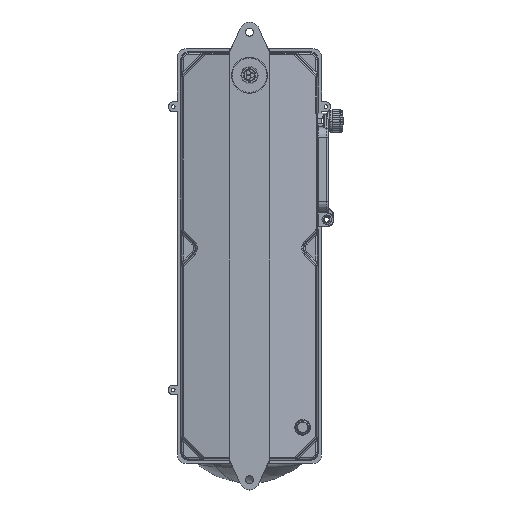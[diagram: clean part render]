
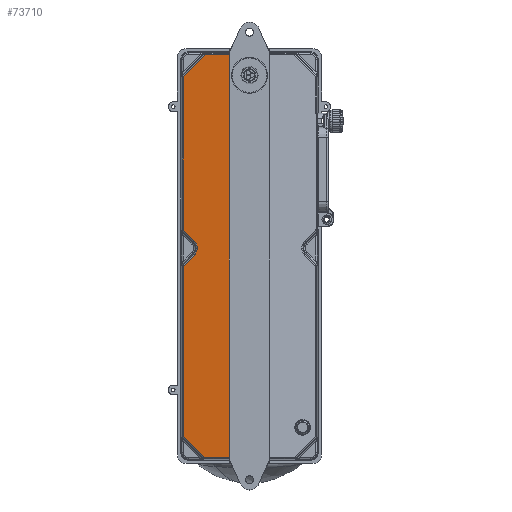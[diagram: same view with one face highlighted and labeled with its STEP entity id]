
A CAD part, top view. The second image highlights one B-rep face of the part: STEP entity #73710.
In plain terms, the highlighted planar face has unit normal (-0.139, 0, 0.99).
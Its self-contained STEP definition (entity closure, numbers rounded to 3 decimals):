
#642 = EDGE_CURVE ( 'NONE', #20931, #56839, #44905, .T. ) ;
#1075 = LINE ( 'NONE', #48529, #13241 ) ;
#1404 = DIRECTION ( 'NONE',  ( 0.403, -0.913, 0.057 ) ) ;
#2658 = CARTESIAN_POINT ( 'NONE',  ( -35.187, 4.452, 48.861 ) ) ;
#2815 = CARTESIAN_POINT ( 'NONE',  ( -13.182, 124.248, 51.953 ) ) ;
#3114 = VERTEX_POINT ( 'NONE', #47565 ) ;
#3405 = CARTESIAN_POINT ( 'NONE',  ( -33.987, -3.257, 49.029 ) ) ;
#3486 = CARTESIAN_POINT ( 'NONE',  ( -12.85, 144.5, 52. ) ) ;
#3700 = VERTEX_POINT ( 'NONE', #37438 ) ;
#4183 = DIRECTION ( 'NONE',  ( 0., -1., 0. ) ) ;
#5921 = VECTOR ( 'NONE', #43735, 1000. ) ;
#7213 = EDGE_CURVE ( 'NONE', #76088, #27225, #66057, .T. ) ;
#7387 = VERTEX_POINT ( 'NONE', #2658 ) ;
#8722 = ORIENTED_EDGE ( 'NONE', *, *, #30573, .T. ) ;
#9812 = CARTESIAN_POINT ( 'NONE',  ( -13.785, 123.697, 51.869 ) ) ;
#9951 = EDGE_LOOP ( 'NONE', ( #52623, #22011, #17807, #56294, #73915, #20162, #44597, #38093, #62596, #21142, #31139, #42838, #53831, #8722, #9972 ) ) ;
#9972 = ORIENTED_EDGE ( 'NONE', *, *, #13708, .T. ) ;
#10312 =( BOUNDED_CURVE ( )  B_SPLINE_CURVE ( 3, ( #41607, #65360, #3405, #27075 ),
 .UNSPECIFIED., .F., .T. ) 
 B_SPLINE_CURVE_WITH_KNOTS ( ( 4, 4 ),
 ( 0., 0.787 ),
 .UNSPECIFIED. ) 
 CURVE ( )  GEOMETRIC_REPRESENTATION_ITEM ( )  RATIONAL_B_SPLINE_CURVE ( ( 1., 0.949, 0.949, 1. ) ) 
 REPRESENTATION_ITEM ( '' )  );
#11232 = DIRECTION ( 'NONE',  ( 0.99, 0.001, 0.139 ) ) ;
#11341 = EDGE_CURVE ( 'NONE', #3114, #75151, #1075, .T. ) ;
#11452 = CARTESIAN_POINT ( 'NONE',  ( -13.619, -133.815, 51.892 ) ) ;
#12396 = CARTESIAN_POINT ( 'NONE',  ( -35.187, -4.452, 48.861 ) ) ;
#12612 = DIRECTION ( 'NONE',  ( 0.705, -0.702, 0.099 ) ) ;
#13241 = VECTOR ( 'NONE', #11232, 1000. ) ;
#13584 = VECTOR ( 'NONE', #25551, 1000. ) ;
#13708 = EDGE_CURVE ( 'NONE', #56278, #55480, #17269, .T. ) ;
#15386 = CARTESIAN_POINT ( 'NONE',  ( -10.031, 141.616, 52.396 ) ) ;
#15650 = CARTESIAN_POINT ( 'NONE',  ( -13.619, 123.815, 51.892 ) ) ;
#16439 = VECTOR ( 'NONE', #1404, 1000. ) ;
#17052 = CARTESIAN_POINT ( 'NONE',  ( -42.256, -120.61, 47.867 ) ) ;
#17269 = LINE ( 'NONE', #53068, #24469 ) ;
#17653 = CARTESIAN_POINT ( 'NONE',  ( -13.182, -134.248, 51.953 ) ) ;
#17733 = LINE ( 'NONE', #41391, #5921 ) ;
#17807 = ORIENTED_EDGE ( 'NONE', *, *, #642, .T. ) ;
#18407 = LINE ( 'NONE', #67008, #33317 ) ;
#19454 = PLANE ( 'NONE',  #38804 ) ;
#19760 = B_SPLINE_CURVE_WITH_KNOTS ( 'NONE', 3,
 ( #47221, #40161, #11452, #34714, #17653, #29267 ),
 .UNSPECIFIED., .F., .F.,
 ( 4, 2, 4 ),
 ( 0., 0.001, 0.001 ),
 .UNSPECIFIED. ) ;
#20162 = ORIENTED_EDGE ( 'NONE', *, *, #55411, .T. ) ;
#20539 = CARTESIAN_POINT ( 'NONE',  ( -42.256, 11.097, 47.867 ) ) ;
#20931 = VERTEX_POINT ( 'NONE', #28142 ) ;
#21142 = ORIENTED_EDGE ( 'NONE', *, *, #43530, .T. ) ;
#22011 = ORIENTED_EDGE ( 'NONE', *, *, #35869, .T. ) ;
#23886 = CARTESIAN_POINT ( 'NONE',  ( -42.256, -120.21, 47.867 ) ) ;
#24469 = VECTOR ( 'NONE', #35478, 1000. ) ;
#24939 = VERTEX_POINT ( 'NONE', #44016 ) ;
#25210 = VERTEX_POINT ( 'NONE', #23886 ) ;
#25418 = CARTESIAN_POINT ( 'NONE',  ( -13.953, -133.582, 51.845 ) ) ;
#25551 = DIRECTION ( 'NONE',  ( -0.705, -0.702, -0.099 ) ) ;
#26855 = CARTESIAN_POINT ( 'NONE',  ( -13.953, 123.582, 51.845 ) ) ;
#27075 = CARTESIAN_POINT ( 'NONE',  ( -35.187, -4.452, 48.861 ) ) ;
#27225 = VERTEX_POINT ( 'NONE', #33857 ) ;
#28142 = CARTESIAN_POINT ( 'NONE',  ( -13.953, 123.582, 51.845 ) ) ;
#28534 = DIRECTION ( 'NONE',  ( -0.705, -0.702, -0.099 ) ) ;
#28681 = LINE ( 'NONE', #17052, #65031 ) ;
#29267 = CARTESIAN_POINT ( 'NONE',  ( -13.099, -134.437, 51.965 ) ) ;
#29542 = VECTOR ( 'NONE', #39769, 1000. ) ;
#30573 = EDGE_CURVE ( 'NONE', #52563, #56278, #53570, .T. ) ;
#30905 = CARTESIAN_POINT ( 'NONE',  ( -13.378, -133.805, 51.926 ) ) ;
#31095 = FACE_OUTER_BOUND ( 'NONE', #9951, .T. ) ;
#31139 = ORIENTED_EDGE ( 'NONE', *, *, #69265, .T. ) ;
#31640 = CARTESIAN_POINT ( 'NONE',  ( -33.338, 0., 49.121 ) ) ;
#31746 = EDGE_CURVE ( 'NONE', #51548, #3700, #38399, .T. ) ;
#33317 = VECTOR ( 'NONE', #36261, 1000. ) ;
#33857 = CARTESIAN_POINT ( 'NONE',  ( -42.256, -11.497, 47.867 ) ) ;
#34714 = CARTESIAN_POINT ( 'NONE',  ( -13.318, -134.089, 51.934 ) ) ;
#35478 = DIRECTION ( 'NONE',  ( 0., 1., 0. ) ) ;
#35487 = LINE ( 'NONE', #48376, #70454 ) ;
#35869 = EDGE_CURVE ( 'NONE', #55304, #20931, #54454, .T. ) ;
#36261 = DIRECTION ( 'NONE',  ( 0.403, 0.913, 0.057 ) ) ;
#36333 = CARTESIAN_POINT ( 'NONE',  ( -33.338, 1.693, 49.121 ) ) ;
#37438 = CARTESIAN_POINT ( 'NONE',  ( -42.256, 11.497, 47.867 ) ) ;
#38093 = ORIENTED_EDGE ( 'NONE', *, *, #40236, .T. ) ;
#38399 = LINE ( 'NONE', #20539, #60553 ) ;
#38804 = AXIS2_PLACEMENT_3D ( 'NONE', #3486, #45114, #63025 ) ;
#39125 = EDGE_CURVE ( 'NONE', #75151, #52563, #19760, .T. ) ;
#39769 = DIRECTION ( 'NONE',  ( -0.99, 0.001, -0.139 ) ) ;
#40161 = CARTESIAN_POINT ( 'NONE',  ( -13.786, -133.697, 51.868 ) ) ;
#40236 = EDGE_CURVE ( 'NONE', #24939, #76088, #10312, .T. ) ;
#40326 = DIRECTION ( 'NONE',  ( 0., -1., 0. ) ) ;
#41331 = CARTESIAN_POINT ( 'NONE',  ( -12.85, -135., 52. ) ) ;
#41344 = CARTESIAN_POINT ( 'NONE',  ( -42.256, 109.503, 47.867 ) ) ;
#41391 = CARTESIAN_POINT ( 'NONE',  ( -158.413, -4.455, 31.542 ) ) ;
#41607 = CARTESIAN_POINT ( 'NONE',  ( -33.338, 0., 49.121 ) ) ;
#42838 = ORIENTED_EDGE ( 'NONE', *, *, #11341, .T. ) ;
#43328 = CARTESIAN_POINT ( 'NONE',  ( -35.187, 4.452, 48.861 ) ) ;
#43530 = EDGE_CURVE ( 'NONE', #27225, #25210, #28681, .T. ) ;
#43735 = DIRECTION ( 'NONE',  ( 0.705, -0.702, 0.099 ) ) ;
#44016 = CARTESIAN_POINT ( 'NONE',  ( -33.338, 0., 49.121 ) ) ;
#44597 = ORIENTED_EDGE ( 'NONE', *, *, #72188, .T. ) ;
#44905 = LINE ( 'NONE', #68611, #29542 ) ;
#45114 = DIRECTION ( 'NONE',  ( 0.139, 0., -0.99 ) ) ;
#47221 = CARTESIAN_POINT ( 'NONE',  ( -13.953, -133.582, 51.845 ) ) ;
#47459 = EDGE_CURVE ( 'NONE', #55304, #55480, #18407, .T. ) ;
#47565 = CARTESIAN_POINT ( 'NONE',  ( -28.819, -133.601, 49.756 ) ) ;
#47738 = VECTOR ( 'NONE', #28534, 1000. ) ;
#48376 = CARTESIAN_POINT ( 'NONE',  ( -93.207, 62.271, 40.707 ) ) ;
#48529 = CARTESIAN_POINT ( 'NONE',  ( -13.04, -133.581, 51.973 ) ) ;
#49519 = CARTESIAN_POINT ( 'NONE',  ( -13.099, 124.437, 51.965 ) ) ;
#49590 = CARTESIAN_POINT ( 'NONE',  ( -33.987, 3.257, 49.029 ) ) ;
#50308 =( BOUNDED_CURVE ( )  B_SPLINE_CURVE ( 3, ( #43328, #49590, #36333, #31640 ),
 .UNSPECIFIED., .F., .T. ) 
 B_SPLINE_CURVE_WITH_KNOTS ( ( 4, 4 ),
 ( 5.496, 6.283 ),
 .UNSPECIFIED. ) 
 CURVE ( )  GEOMETRIC_REPRESENTATION_ITEM ( )  RATIONAL_B_SPLINE_CURVE ( ( 1., 0.949, 0.949, 1. ) ) 
 REPRESENTATION_ITEM ( '' )  );
#51222 = LINE ( 'NONE', #15386, #47738 ) ;
#51405 = EDGE_CURVE ( 'NONE', #56839, #51548, #51222, .T. ) ;
#51548 = VERTEX_POINT ( 'NONE', #41344 ) ;
#52563 = VERTEX_POINT ( 'NONE', #74146 ) ;
#52623 = ORIENTED_EDGE ( 'NONE', *, *, #47459, .F. ) ;
#53068 = CARTESIAN_POINT ( 'NONE',  ( -12.85, 122., 52. ) ) ;
#53193 = CARTESIAN_POINT ( 'NONE',  ( -28.11, 123.6, 49.855 ) ) ;
#53570 = LINE ( 'NONE', #30905, #16439 ) ;
#53831 = ORIENTED_EDGE ( 'NONE', *, *, #39125, .T. ) ;
#54454 = B_SPLINE_CURVE_WITH_KNOTS ( 'NONE', 3,
 ( #49519, #2815, #63111, #15650, #9812, #26855 ),
 .UNSPECIFIED., .F., .F.,
 ( 4, 2, 4 ),
 ( 0., 0.001, 0.001 ),
 .UNSPECIFIED. ) ;
#55185 = CARTESIAN_POINT ( 'NONE',  ( 49.875, 80.314, 60.815 ) ) ;
#55304 = VERTEX_POINT ( 'NONE', #55843 ) ;
#55411 = EDGE_CURVE ( 'NONE', #3700, #7387, #35487, .T. ) ;
#55480 = VERTEX_POINT ( 'NONE', #65454 ) ;
#55843 = CARTESIAN_POINT ( 'NONE',  ( -13.099, 124.437, 51.965 ) ) ;
#56278 = VERTEX_POINT ( 'NONE', #41331 ) ;
#56294 = ORIENTED_EDGE ( 'NONE', *, *, #51405, .T. ) ;
#56839 = VERTEX_POINT ( 'NONE', #53193 ) ;
#60553 = VECTOR ( 'NONE', #4183, 1000. ) ;
#62596 = ORIENTED_EDGE ( 'NONE', *, *, #7213, .T. ) ;
#63025 = DIRECTION ( 'NONE',  ( -0.99, 0., -0.139 ) ) ;
#63111 = CARTESIAN_POINT ( 'NONE',  ( -13.318, 124.089, 51.934 ) ) ;
#65031 = VECTOR ( 'NONE', #40326, 1000. ) ;
#65360 = CARTESIAN_POINT ( 'NONE',  ( -33.338, -1.693, 49.121 ) ) ;
#65454 = CARTESIAN_POINT ( 'NONE',  ( -12.85, 125., 52. ) ) ;
#66057 = LINE ( 'NONE', #55185, #13584 ) ;
#67008 = CARTESIAN_POINT ( 'NONE',  ( -5.665, 141.263, 53.01 ) ) ;
#68611 = CARTESIAN_POINT ( 'NONE',  ( -28.371, 123.6, 49.819 ) ) ;
#69265 = EDGE_CURVE ( 'NONE', #25210, #3114, #17733, .T. ) ;
#70454 = VECTOR ( 'NONE', #12612, 1000. ) ;
#72188 = EDGE_CURVE ( 'NONE', #7387, #24939, #50308, .T. ) ;
#73710 = ADVANCED_FACE ( 'NONE', ( #31095 ), #19454, .F. ) ;
#73915 = ORIENTED_EDGE ( 'NONE', *, *, #31746, .T. ) ;
#74146 = CARTESIAN_POINT ( 'NONE',  ( -13.099, -134.437, 51.965 ) ) ;
#75151 = VERTEX_POINT ( 'NONE', #25418 ) ;
#76088 = VERTEX_POINT ( 'NONE', #12396 ) ;
